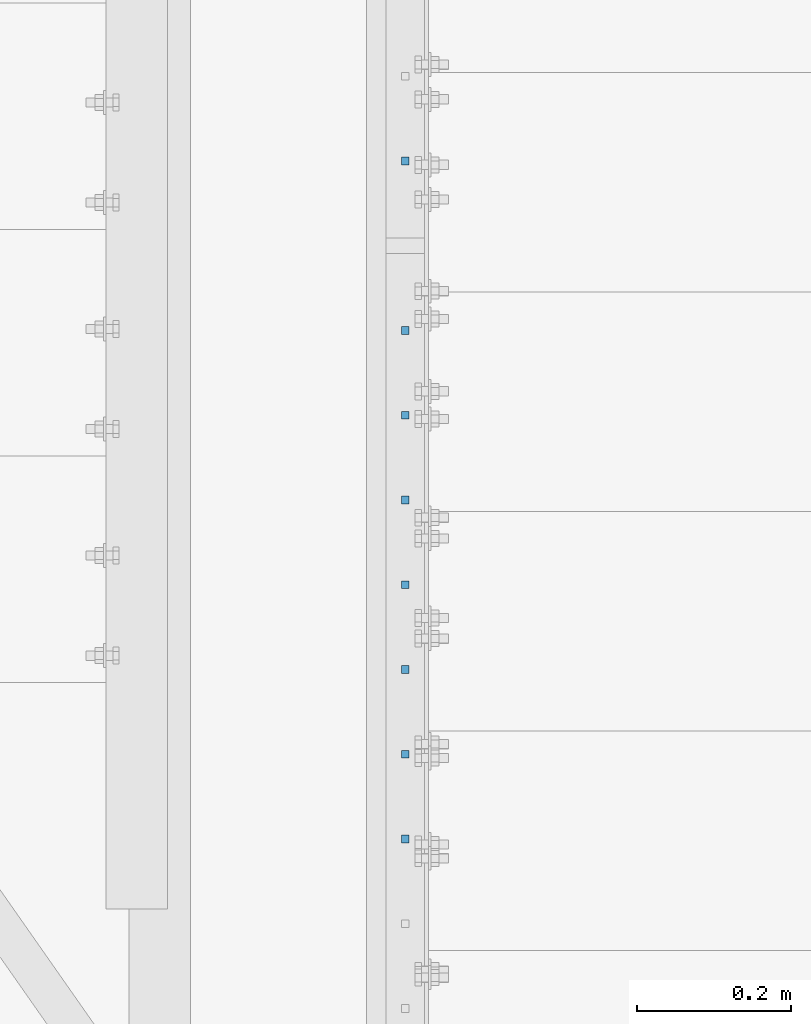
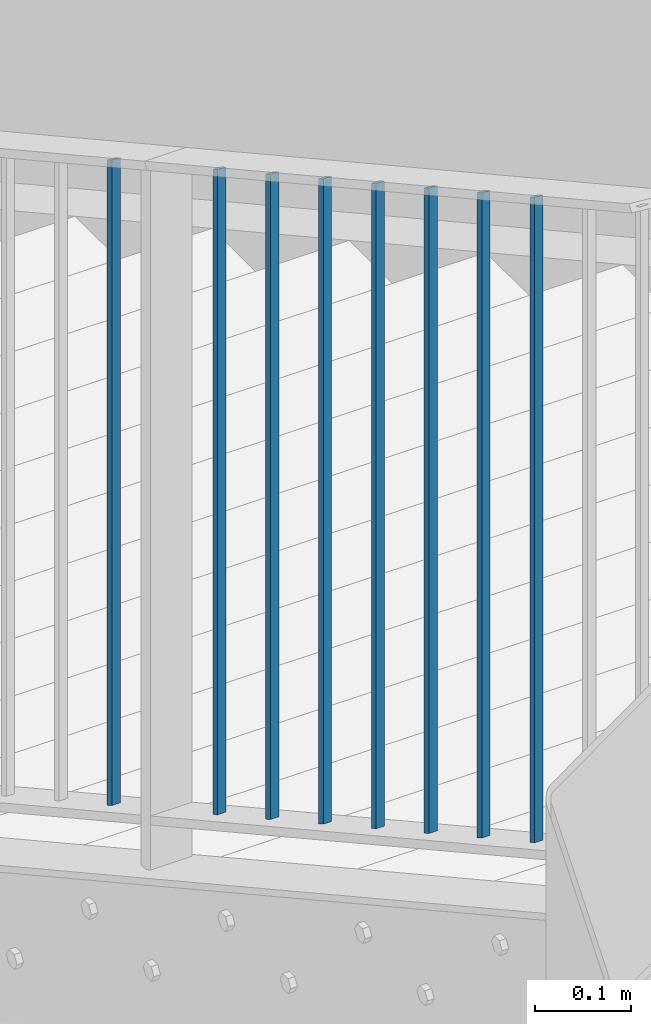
# One storey, part 39 of 78: 8 beams, 1 element without a shape of its own.
"""IFC2X3 building model written with IfcOpenShell, lengths in millimetres."""

from ifc_helpers import new_model, si_unit, frame, origin_with_axes, origin_2d_with_axis, place, context, subcontext, project, spatial, rectangle, extrude, clip, halfspace, material, type_object, element, aggregate, save


model = new_model("IFC2X3")

# Units and contexts
model_context = context("Model", 3, precision=1e-05, world=origin_with_axes())
body_context = subcontext(model_context, "Body", "Model", "MODEL_VIEW")
ifc_project = project(units=[si_unit("LENGTHUNIT", "METRE", prefix="MILLI"), si_unit("AREAUNIT", "SQUARE_METRE"), si_unit("VOLUMEUNIT", "CUBIC_METRE"), si_unit("MASSUNIT", "GRAM", prefix="KILO"), si_unit("TIMEUNIT", "SECOND"), si_unit("PLANEANGLEUNIT", "RADIAN"), si_unit("SOLIDANGLEUNIT", "STERADIAN"), si_unit("THERMODYNAMICTEMPERATUREUNIT", "DEGREE_CELSIUS"), si_unit("LUMINOUSINTENSITYUNIT", "LUMEN")], contexts=[model_context])

# Site, building, storey
site_placement = place(None, origin_with_axes())
site = spatial("IfcSite", under=ifc_project, at=site_placement, Name="Site", CompositionType="ELEMENT")
building_placement = place(site_placement, origin_with_axes())
building = spatial("IfcBuilding", under=site, at=building_placement, Name="Undefined", CompositionType="ELEMENT")
storey_placement = place(building_placement, origin_with_axes())
storey = spatial("IfcBuildingStorey", under=building, at=storey_placement, Name="Undefined", CompositionType="ELEMENT", Elevation=0.0)

# Assembly, beams
assembly_placement = place(storey_placement, origin_with_axes())
assembly = element("IfcElementAssembly", 1, at=assembly_placement, inside=storey, Name="MAIN_COURANTE", AssemblyPlace="NOTDEFINED", PredefinedType="RIGID_FRAME")
ifc_material = material(Name="STEEL/S235JR")
beam_type = type_object("IfcBeamType", Name="PL10*10", PredefinedType="NOTDEFINED")
beam_1_placement = place(assembly_placement, frame((-33012.8599999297, 4477.99999993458, 160656.695715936), z_axis=(1.0, 0.0, 0.0), x_axis=(0.0, 0.0, -1.0)))
beam_1 = element("IfcBeam", 2, at=beam_1_placement, type_object=beam_type, material=ifc_material, Name="LISSE", ObjectType="PL10*10", context=body_context, shape_type="Clipping", body=[
    clip(clip(extrude(rectangle(XDim=10.0, YDim=10.0, at=origin_2d_with_axis()), frame((831.449999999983, 0.0, 0.0), z_axis=(-1.0, 0.0, 0.0), x_axis=(0.0, -1.0, 0.0)), (0.0, 0.0, 1.0), 831.45), halfspace(frame((825.737291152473, 9.09494701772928e-13, 1005.0), z_axis=(0.875241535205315, -0.48368611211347, 0.0), x_axis=(0.48368611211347, 0.875241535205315, 0.0)), False)), halfspace(frame((5.71270869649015, 9.09494701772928e-13, 1005.0), z_axis=(-0.875241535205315, 0.483686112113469, 0.0), x_axis=(-0.483686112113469, -0.875241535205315, 0.0)), False)),
])
beam_2_placement = place(assembly_placement, frame((-33012.8599999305, 4587.99999993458, 160595.906242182), z_axis=(1.0, 0.0, 0.0), x_axis=(0.0, 0.0, -1.0)))
beam_2 = element("IfcBeam", 3, at=beam_2_placement, type_object=beam_type, material=ifc_material, Name="LISSE", ObjectType="PL10*10", context=body_context, shape_type="Clipping", body=[
    clip(clip(extrude(rectangle(XDim=10.0, YDim=10.0, at=origin_2d_with_axis()), frame((831.449999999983, 0.0, 0.0), z_axis=(-1.0, 0.0, 0.0), x_axis=(0.0, -1.0, 0.0)), (0.0, 0.0, 1.0), 831.45), halfspace(frame((825.737291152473, 9.09494701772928e-13, 1005.0), z_axis=(0.875241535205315, -0.48368611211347, 0.0), x_axis=(0.48368611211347, 0.875241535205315, 0.0)), False)), halfspace(frame((5.71270869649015, 9.09494701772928e-13, 1005.0), z_axis=(-0.875241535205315, 0.483686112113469, 0.0), x_axis=(-0.483686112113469, -0.875241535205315, 0.0)), False)),
])
beam_3_placement = place(assembly_placement, frame((-33012.8599999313, 4697.99999993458, 160535.116768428), z_axis=(1.0, 0.0, 0.0), x_axis=(0.0, 0.0, -1.0)))
beam_3 = element("IfcBeam", 4, at=beam_3_placement, type_object=beam_type, material=ifc_material, Name="LISSE", ObjectType="PL10*10", context=body_context, shape_type="Clipping", body=[
    clip(clip(extrude(rectangle(XDim=10.0, YDim=10.0, at=origin_2d_with_axis()), frame((831.449999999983, 0.0, 0.0), z_axis=(-1.0, 0.0, 0.0), x_axis=(0.0, -1.0, 0.0)), (0.0, 0.0, 1.0), 831.45), halfspace(frame((825.737291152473, 9.09494701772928e-13, 1005.0), z_axis=(0.875241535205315, -0.48368611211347, 0.0), x_axis=(0.48368611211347, 0.875241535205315, 0.0)), False)), halfspace(frame((5.71270869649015, 9.09494701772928e-13, 1005.0), z_axis=(-0.875241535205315, 0.483686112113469, 0.0), x_axis=(-0.483686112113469, -0.875241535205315, 0.0)), False)),
])
beam_4_placement = place(assembly_placement, frame((-33012.8599999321, 4807.99999993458, 160474.327294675), z_axis=(1.0, 0.0, 0.0), x_axis=(0.0, 0.0, -1.0)))
beam_4 = element("IfcBeam", 5, at=beam_4_placement, type_object=beam_type, material=ifc_material, Name="LISSE", ObjectType="PL10*10", context=body_context, shape_type="Clipping", body=[
    clip(clip(extrude(rectangle(XDim=10.0, YDim=10.0, at=origin_2d_with_axis()), frame((831.449999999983, 0.0, 0.0), z_axis=(-1.0, 0.0, 0.0), x_axis=(0.0, -1.0, 0.0)), (0.0, 0.0, 1.0), 831.45), halfspace(frame((825.737291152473, 9.09494701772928e-13, 1005.0), z_axis=(0.875241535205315, -0.48368611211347, 0.0), x_axis=(0.48368611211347, 0.875241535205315, 0.0)), False)), halfspace(frame((5.71270869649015, 9.09494701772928e-13, 1005.0), z_axis=(-0.875241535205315, 0.483686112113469, 0.0), x_axis=(-0.483686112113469, -0.875241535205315, 0.0)), False)),
])
beam_5_placement = place(assembly_placement, frame((-33012.8599999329, 4917.99999993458, 160413.537820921), z_axis=(1.0, 0.0, 0.0), x_axis=(0.0, 0.0, -1.0)))
beam_5 = element("IfcBeam", 6, at=beam_5_placement, type_object=beam_type, material=ifc_material, Name="LISSE", ObjectType="PL10*10", context=body_context, shape_type="Clipping", body=[
    clip(clip(extrude(rectangle(XDim=10.0, YDim=10.0, at=origin_2d_with_axis()), frame((831.449999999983, 0.0, 0.0), z_axis=(-1.0, 0.0, 0.0), x_axis=(0.0, -1.0, 0.0)), (0.0, 0.0, 1.0), 831.45), halfspace(frame((825.737291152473, 9.09494701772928e-13, 1005.0), z_axis=(0.875241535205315, -0.48368611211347, 0.0), x_axis=(0.48368611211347, 0.875241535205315, 0.0)), False)), halfspace(frame((5.71270869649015, 9.09494701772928e-13, 1005.0), z_axis=(-0.875241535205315, 0.483686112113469, 0.0), x_axis=(-0.483686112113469, -0.875241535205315, 0.0)), False)),
])
beam_6_placement = place(assembly_placement, frame((-33012.8599999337, 5027.99999993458, 160352.748347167), z_axis=(1.0, 0.0, 0.0), x_axis=(0.0, 0.0, -1.0)))
beam_6 = element("IfcBeam", 7, at=beam_6_placement, type_object=beam_type, material=ifc_material, Name="LISSE", ObjectType="PL10*10", context=body_context, shape_type="Clipping", body=[
    clip(clip(extrude(rectangle(XDim=10.0, YDim=10.0, at=origin_2d_with_axis()), frame((831.449999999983, 0.0, 0.0), z_axis=(-1.0, 0.0, 0.0), x_axis=(0.0, -1.0, 0.0)), (0.0, 0.0, 1.0), 831.45), halfspace(frame((825.737291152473, 9.09494701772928e-13, 1005.0), z_axis=(0.875241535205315, -0.48368611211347, 0.0), x_axis=(0.48368611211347, 0.875241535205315, 0.0)), False)), halfspace(frame((5.71270869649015, 9.09494701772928e-13, 1005.0), z_axis=(-0.875241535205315, 0.483686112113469, 0.0), x_axis=(-0.483686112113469, -0.875241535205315, 0.0)), False)),
])
beam_7_placement = place(assembly_placement, frame((-33012.8599999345, 5137.99999993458, 160291.958873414), z_axis=(1.0, 0.0, 0.0), x_axis=(0.0, 0.0, -1.0)))
beam_7 = element("IfcBeam", 8, at=beam_7_placement, type_object=beam_type, material=ifc_material, Name="LISSE", ObjectType="PL10*10", context=body_context, shape_type="Clipping", body=[
    clip(clip(extrude(rectangle(XDim=10.0, YDim=10.0, at=origin_2d_with_axis()), frame((831.449999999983, 0.0, 0.0), z_axis=(-1.0, 0.0, 0.0), x_axis=(0.0, -1.0, 0.0)), (0.0, 0.0, 1.0), 831.45), halfspace(frame((825.737291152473, 9.09494701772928e-13, 1005.0), z_axis=(0.875241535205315, -0.48368611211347, 0.0), x_axis=(0.48368611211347, 0.875241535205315, 0.0)), False)), halfspace(frame((5.71270869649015, 9.09494701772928e-13, 1005.0), z_axis=(-0.875241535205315, 0.483686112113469, 0.0), x_axis=(-0.483686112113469, -0.875241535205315, 0.0)), False)),
])
beam_8_placement = place(assembly_placement, frame((-33012.8599999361, 5357.99999991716, 160170.379925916), z_axis=(1.0, 0.0, 0.0), x_axis=(0.0, 0.0, -1.0)))
beam_8 = element("IfcBeam", 9, at=beam_8_placement, type_object=beam_type, material=ifc_material, Name="LISSE", ObjectType="PL10*10", context=body_context, shape_type="Clipping", body=[
    clip(clip(extrude(rectangle(XDim=10.0, YDim=10.0, at=origin_2d_with_axis()), frame((831.449999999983, 0.0, 0.0), z_axis=(-1.0, 0.0, 0.0), x_axis=(0.0, -1.0, 0.0)), (0.0, 0.0, 1.0), 831.45), halfspace(frame((825.737291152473, 9.09494701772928e-13, 1005.0), z_axis=(0.875241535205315, -0.48368611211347, 0.0), x_axis=(0.48368611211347, 0.875241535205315, 0.0)), False)), halfspace(frame((5.71270869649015, 9.09494701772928e-13, 1005.0), z_axis=(-0.875241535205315, 0.483686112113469, 0.0), x_axis=(-0.483686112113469, -0.875241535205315, 0.0)), False)),
])
aggregate(assembly, [beam_1, beam_2, beam_3, beam_4, beam_5, beam_6, beam_7, beam_8])

save(model, "model.ifc")
